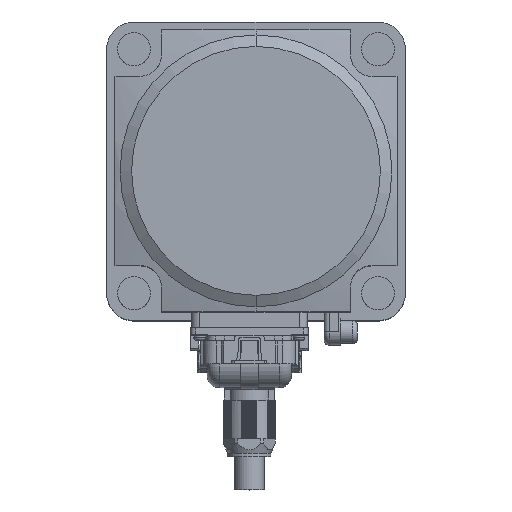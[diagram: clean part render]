
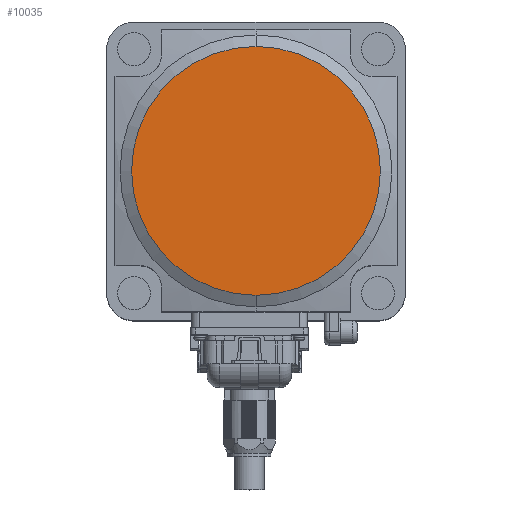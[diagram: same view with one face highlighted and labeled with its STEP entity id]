
A CAD part, top view. The second image highlights one B-rep face of the part: STEP entity #10035.
In plain terms, the highlighted planar face has unit normal (0, 0, 1).
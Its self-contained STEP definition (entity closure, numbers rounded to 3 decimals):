
#825 = EDGE_LOOP ( 'NONE', ( #6502, #10031 ) ) ;
#863 = DIRECTION ( 'NONE',  ( 0., 1., 0. ) ) ;
#2565 = VERTEX_POINT ( 'NONE', #17064 ) ;
#3562 = DIRECTION ( 'NONE',  ( -1., 0., 0. ) ) ;
#4566 = CARTESIAN_POINT ( 'NONE',  ( 0., 0., 84. ) ) ;
#5454 = CIRCLE ( 'NONE', #11105, 37.5 ) ;
#6502 = ORIENTED_EDGE ( 'NONE', *, *, #19102, .F. ) ;
#6656 = DIRECTION ( 'NONE',  ( 0., 0., -1. ) ) ;
#6981 = FACE_OUTER_BOUND ( 'NONE', #825, .T. ) ;
#7075 = CARTESIAN_POINT ( 'NONE',  ( 0., -37.5, 84. ) ) ;
#7960 = AXIS2_PLACEMENT_3D ( 'NONE', #20064, #8530, #3562 ) ;
#8530 = DIRECTION ( 'NONE',  ( 0., 0., -1. ) ) ;
#9035 = AXIS2_PLACEMENT_3D ( 'NONE', #15455, #12452, #863 ) ;
#10031 = ORIENTED_EDGE ( 'NONE', *, *, #20251, .F. ) ;
#10035 = ADVANCED_FACE ( 'NONE', ( #6981 ), #13710, .F. ) ;
#11105 = AXIS2_PLACEMENT_3D ( 'NONE', #4566, #6656, #21832 ) ;
#12452 = DIRECTION ( 'NONE',  ( 0., 0., -1. ) ) ;
#12916 = VERTEX_POINT ( 'NONE', #7075 ) ;
#13710 = PLANE ( 'NONE',  #7960 ) ;
#15455 = CARTESIAN_POINT ( 'NONE',  ( 0., 0., 84. ) ) ;
#17064 = CARTESIAN_POINT ( 'NONE',  ( 0., 37.5, 84. ) ) ;
#18257 = CIRCLE ( 'NONE', #9035, 37.5 ) ;
#19102 = EDGE_CURVE ( 'NONE', #2565, #12916, #5454, .T. ) ;
#20064 = CARTESIAN_POINT ( 'NONE',  ( 42.5, -42.5, 84. ) ) ;
#20251 = EDGE_CURVE ( 'NONE', #12916, #2565, #18257, .T. ) ;
#21832 = DIRECTION ( 'NONE',  ( 0., 1., 0. ) ) ;
